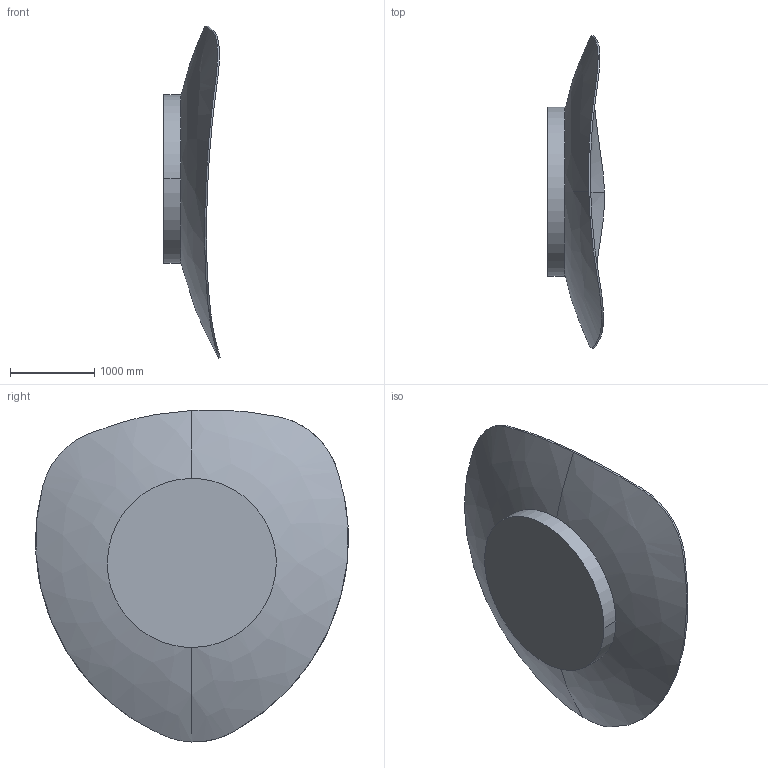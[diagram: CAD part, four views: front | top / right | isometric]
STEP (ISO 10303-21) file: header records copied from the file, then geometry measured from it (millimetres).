
FILE_DESCRIPTION(/* description */ (''),/* implementation_level */ '2;1');
FILE_NAME(/* name */ '4584',/* time_stamp */ '2022-02-01T16:45:23+01:00',/* author */ (''),/* organization */ (''),/* preprocessor_version */ 'ST-DEVELOPER v16.5',/* originating_system */ '',/* authorisation */ '');
FILE_SCHEMA (('CONFIG_CONTROL_DESIGN'));
Length unit declared in the file: centimetre
Products named in the file (1): Document
Bounding box: 671.02 x 3703.6 x 3930.43 mm (x, y, z)
Volume: 347180531.8 mm3; surface area: 34208154.2 mm2
Topology: 3 solids, 3 shells, 42 faces, 90 edges, 60 vertices
Faces by surface type: cylinder 24, plane 12, bspline 6
Entity records: 3526 total; most frequent: CARTESIAN_POINT 2810, ORIENTED_EDGE 180, EDGE_CURVE 90, VERTEX_POINT 60, EDGE_LOOP 50, ADVANCED_FACE 42, FACE_OUTER_BOUND 42, B_SPLINE_CURVE_WITH_KNOTS 40
